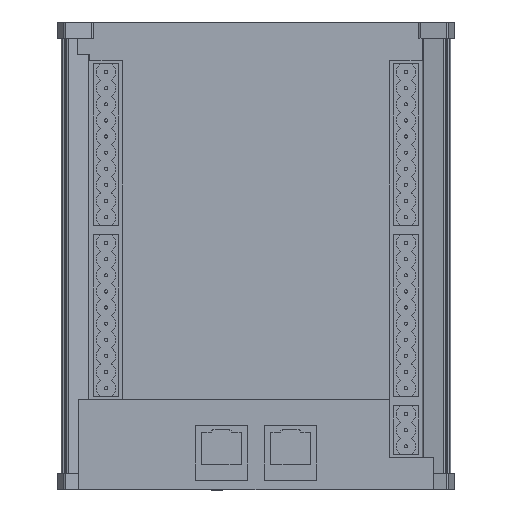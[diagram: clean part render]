
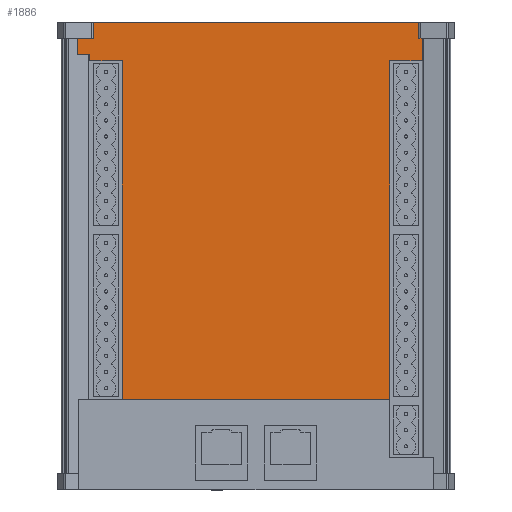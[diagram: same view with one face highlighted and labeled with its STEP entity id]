
A CAD part, top view. The second image highlights one B-rep face of the part: STEP entity #1886.
In plain terms, the highlighted planar face has unit normal (0, 0, 1).
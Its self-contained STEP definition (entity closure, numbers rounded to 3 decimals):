
#1886=ADVANCED_FACE('',(#2829),#2378,.T.);
#2378=PLANE('',#11998);
#2829=FACE_OUTER_BOUND('',#3380,.T.);
#3380=EDGE_LOOP('',(#5559,#5560,#5561,#5562,#5563,#5564,#5565,#5566,#5567,
#5568,#5569,#5570,#5571,#5572));
#5559=ORIENTED_EDGE('',*,*,#8766,.F.);
#5560=ORIENTED_EDGE('',*,*,#8767,.F.);
#5561=ORIENTED_EDGE('',*,*,#8768,.T.);
#5562=ORIENTED_EDGE('',*,*,#8769,.T.);
#5563=ORIENTED_EDGE('',*,*,#8763,.T.);
#5564=ORIENTED_EDGE('',*,*,#8770,.T.);
#5565=ORIENTED_EDGE('',*,*,#8771,.T.);
#5566=ORIENTED_EDGE('',*,*,#8772,.F.);
#5567=ORIENTED_EDGE('',*,*,#8773,.T.);
#5568=ORIENTED_EDGE('',*,*,#8774,.T.);
#5569=ORIENTED_EDGE('',*,*,#8775,.T.);
#5570=ORIENTED_EDGE('',*,*,#8776,.T.);
#5571=ORIENTED_EDGE('',*,*,#8777,.T.);
#5572=ORIENTED_EDGE('',*,*,#8778,.T.);
#7422=VERTEX_POINT('',#17552);
#7423=VERTEX_POINT('',#17554);
#7425=VERTEX_POINT('',#17560);
#7426=VERTEX_POINT('',#17561);
#7427=VERTEX_POINT('',#17563);
#7428=VERTEX_POINT('',#17565);
#7429=VERTEX_POINT('',#17568);
#7430=VERTEX_POINT('',#17570);
#7431=VERTEX_POINT('',#17572);
#7432=VERTEX_POINT('',#17574);
#7433=VERTEX_POINT('',#17576);
#7434=VERTEX_POINT('',#17578);
#7435=VERTEX_POINT('',#17580);
#7436=VERTEX_POINT('',#17582);
#8763=EDGE_CURVE('',#7423,#7422,#10087,.T.);
#8766=EDGE_CURVE('',#7425,#7426,#10090,.T.);
#8767=EDGE_CURVE('',#7427,#7425,#10091,.T.);
#8768=EDGE_CURVE('',#7427,#7428,#10092,.T.);
#8769=EDGE_CURVE('',#7428,#7423,#10093,.T.);
#8770=EDGE_CURVE('',#7422,#7429,#10094,.T.);
#8771=EDGE_CURVE('',#7429,#7430,#10095,.T.);
#8772=EDGE_CURVE('',#7431,#7430,#10096,.T.);
#8773=EDGE_CURVE('',#7431,#7432,#10097,.T.);
#8774=EDGE_CURVE('',#7432,#7433,#10098,.T.);
#8775=EDGE_CURVE('',#7433,#7434,#10099,.T.);
#8776=EDGE_CURVE('',#7434,#7435,#10100,.T.);
#8777=EDGE_CURVE('',#7435,#7436,#10101,.T.);
#8778=EDGE_CURVE('',#7436,#7426,#10102,.T.);
#10087=LINE('',#17553,#11150);
#10090=LINE('',#17559,#11153);
#10091=LINE('',#17562,#11154);
#10092=LINE('',#17564,#11155);
#10093=LINE('',#17566,#11156);
#10094=LINE('',#17567,#11157);
#10095=LINE('',#17569,#11158);
#10096=LINE('',#17571,#11159);
#10097=LINE('',#17573,#11160);
#10098=LINE('',#17575,#11161);
#10099=LINE('',#17577,#11162);
#10100=LINE('',#17579,#11163);
#10101=LINE('',#17581,#11164);
#10102=LINE('',#17583,#11165);
#11150=VECTOR('',#14271,1.);
#11153=VECTOR('',#14276,1.);
#11154=VECTOR('',#14277,1.);
#11155=VECTOR('',#14278,1.);
#11156=VECTOR('',#14279,1.);
#11157=VECTOR('',#14280,1.);
#11158=VECTOR('',#14281,1.);
#11159=VECTOR('',#14282,1.);
#11160=VECTOR('',#14283,1.);
#11161=VECTOR('',#14284,1.);
#11162=VECTOR('',#14285,1.);
#11163=VECTOR('',#14286,1.);
#11164=VECTOR('',#14287,1.);
#11165=VECTOR('',#14288,1.);
#11998=AXIS2_PLACEMENT_3D('',#17584,#14289,#14290);
#14271=DIRECTION('',(1.,0.,0.));
#14276=DIRECTION('',(-1.,0.,0.));
#14277=DIRECTION('',(0.,1.,0.));
#14278=DIRECTION('',(1.,0.,0.));
#14279=DIRECTION('',(0.,1.,0.));
#14280=DIRECTION('',(0.,1.,0.));
#14281=DIRECTION('',(-1.,0.,0.));
#14282=DIRECTION('',(0.,-1.,0.));
#14283=DIRECTION('',(-1.,0.,0.));
#14284=DIRECTION('',(0.,-1.,0.));
#14285=DIRECTION('',(-1.,0.,0.));
#14286=DIRECTION('',(0.,-1.,0.));
#14287=DIRECTION('',(1.,0.,0.));
#14288=DIRECTION('',(0.,-1.,0.));
#14289=DIRECTION('',(0.,0.,1.));
#14290=DIRECTION('',(-1.,0.,0.));
#17552=CARTESIAN_POINT('',(51.479,60.5,8.415));
#17553=CARTESIAN_POINT('',(-46.479,60.5,8.415));
#17554=CARTESIAN_POINT('',(41.479,60.5,8.415));
#17559=CARTESIAN_POINT('',(40.979,60.5,8.415));
#17560=CARTESIAN_POINT('',(-41.479,60.5,8.415));
#17561=CARTESIAN_POINT('',(-51.479,60.5,8.415));
#17562=CARTESIAN_POINT('',(-41.479,55.5,8.415));
#17563=CARTESIAN_POINT('',(-41.479,-44.5,8.415));
#17564=CARTESIAN_POINT('',(0.,-44.5,8.415));
#17565=CARTESIAN_POINT('',(41.479,-44.5,8.415));
#17566=CARTESIAN_POINT('',(41.479,-44.5,8.415));
#17567=CARTESIAN_POINT('',(51.479,55.5,8.415));
#17568=CARTESIAN_POINT('',(51.479,67.5,8.415));
#17569=CARTESIAN_POINT('',(46.041,67.5,8.415));
#17570=CARTESIAN_POINT('',(50.479,67.5,8.415));
#17571=CARTESIAN_POINT('',(50.479,55.5,8.415));
#17572=CARTESIAN_POINT('',(50.479,72.5,8.415));
#17573=CARTESIAN_POINT('',(40.979,72.5,8.415));
#17574=CARTESIAN_POINT('',(-50.479,72.5,8.415));
#17575=CARTESIAN_POINT('',(-50.479,55.5,8.415));
#17576=CARTESIAN_POINT('',(-50.479,67.5,8.415));
#17577=CARTESIAN_POINT('',(46.041,67.5,8.415));
#17578=CARTESIAN_POINT('',(-55.479,67.5,8.415));
#17579=CARTESIAN_POINT('',(-55.479,-67.5,8.415));
#17580=CARTESIAN_POINT('',(-55.479,62.5,8.415));
#17581=CARTESIAN_POINT('',(0.,62.5,8.415));
#17582=CARTESIAN_POINT('',(-51.479,62.5,8.415));
#17583=CARTESIAN_POINT('',(-51.479,-67.5,8.415));
#17584=CARTESIAN_POINT('',(40.979,55.5,8.415));
